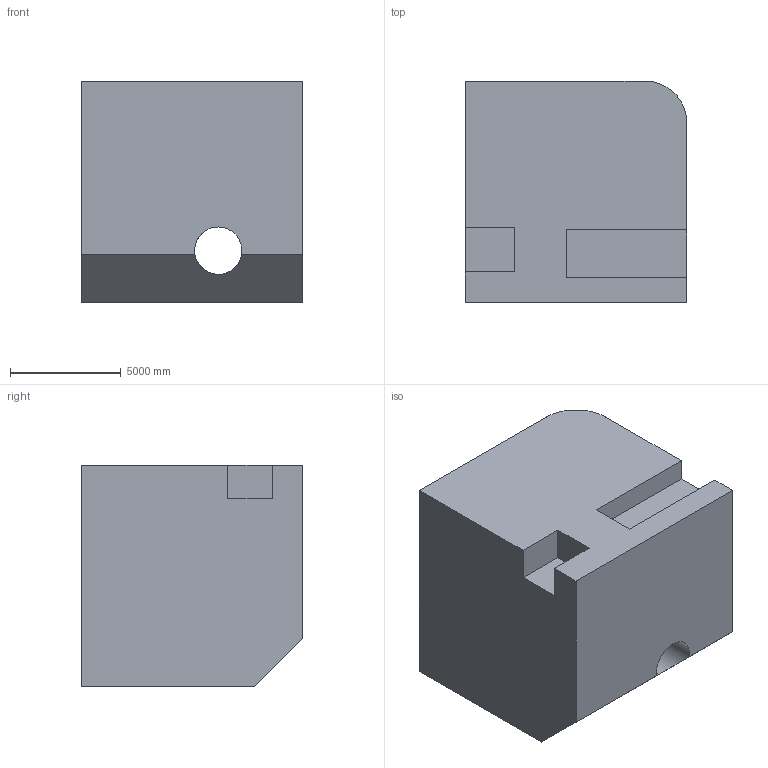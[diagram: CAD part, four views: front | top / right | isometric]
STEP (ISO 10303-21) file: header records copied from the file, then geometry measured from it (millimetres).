
FILE_DESCRIPTION (( 'STEP AP203' ), '1' );
FILE_NAME ('1738.STEP', '2022-08-19T12:14:56', ( 'user' ), ( '' ), 'SwSTEP 2.0', 'SolidWorks 2021', '' );
FILE_SCHEMA (( 'CONFIG_CONTROL_DESIGN' ));
Length unit declared in the file: centimetre
Products named in the file (1): 1738
Bounding box: 10000 x 10000 x 10000 mm (x, y, z)
Volume: 874432844760.6 mm3; surface area: 730104855.5 mm2
Topology: 2 solids, 2 shells, 42 faces, 117 edges, 78 vertices
Faces by surface type: plane 27, cylinder 15
Entity records: 2343 total; most frequent: CARTESIAN_POINT 1181, ORIENTED_EDGE 234, DIRECTION 213, EDGE_CURVE 117, LINE 83, VECTOR 83, VERTEX_POINT 78, AXIS2_PLACEMENT_3D 65
